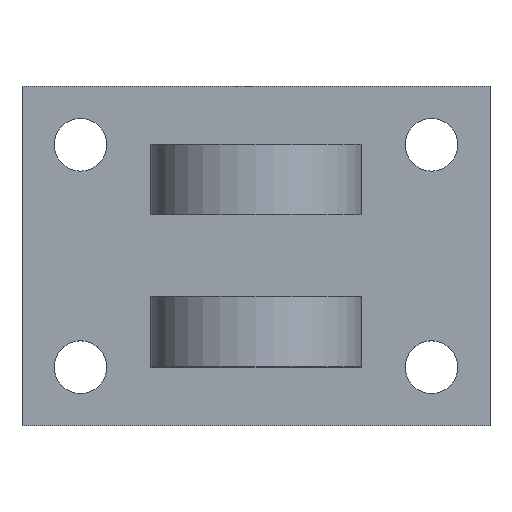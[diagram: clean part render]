
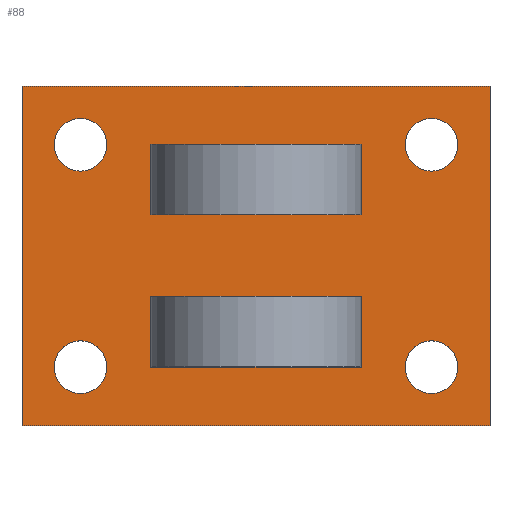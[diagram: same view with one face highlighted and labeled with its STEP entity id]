
A CAD part, top view. The second image highlights one B-rep face of the part: STEP entity #88.
In plain terms, the highlighted planar face has unit normal (0, 0, 1).
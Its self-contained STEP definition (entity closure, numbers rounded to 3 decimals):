
#24 = VERTEX_POINT('',#25);
#25 = CARTESIAN_POINT('',(0.,0.,10.));
#40 = VERTEX_POINT('',#41);
#41 = CARTESIAN_POINT('',(0.,58.,10.));
#47 = EDGE_CURVE('',#24,#40,#48,.T.);
#48 = LINE('',#49,#50);
#49 = CARTESIAN_POINT('',(0.,0.,10.));
#50 = VECTOR('',#51,1.);
#51 = DIRECTION('',(-0.,1.,0.));
#70 = EDGE_CURVE('',#24,#71,#73,.T.);
#71 = VERTEX_POINT('',#72);
#72 = CARTESIAN_POINT('',(80.,0.,10.));
#73 = LINE('',#74,#75);
#74 = CARTESIAN_POINT('',(0.,0.,10.));
#75 = VECTOR('',#76,1.);
#76 = DIRECTION('',(1.,0.,-0.));
#88 = ADVANCED_FACE('',(#89,#107,#118,#152,#163,#174,#208),#219,.T.);
#89 = FACE_BOUND('',#90,.T.);
#90 = EDGE_LOOP('',(#91,#92,#93,#101));
#91 = ORIENTED_EDGE('',*,*,#47,.F.);
#92 = ORIENTED_EDGE('',*,*,#70,.T.);
#93 = ORIENTED_EDGE('',*,*,#94,.T.);
#94 = EDGE_CURVE('',#71,#95,#97,.T.);
#95 = VERTEX_POINT('',#96);
#96 = CARTESIAN_POINT('',(80.,58.,10.));
#97 = LINE('',#98,#99);
#98 = CARTESIAN_POINT('',(80.,0.,10.));
#99 = VECTOR('',#100,1.);
#100 = DIRECTION('',(-0.,1.,0.));
#101 = ORIENTED_EDGE('',*,*,#102,.F.);
#102 = EDGE_CURVE('',#40,#95,#103,.T.);
#103 = LINE('',#104,#105);
#104 = CARTESIAN_POINT('',(0.,58.,10.));
#105 = VECTOR('',#106,1.);
#106 = DIRECTION('',(1.,0.,-0.));
#107 = FACE_BOUND('',#108,.T.);
#108 = EDGE_LOOP('',(#109));
#109 = ORIENTED_EDGE('',*,*,#110,.F.);
#110 = EDGE_CURVE('',#111,#111,#113,.T.);
#111 = VERTEX_POINT('',#112);
#112 = CARTESIAN_POINT('',(14.5,10.,10.));
#113 = CIRCLE('',#114,4.5);
#114 = AXIS2_PLACEMENT_3D('',#115,#116,#117);
#115 = CARTESIAN_POINT('',(10.,10.,10.));
#116 = DIRECTION('',(0.,0.,1.));
#117 = DIRECTION('',(1.,0.,-0.));
#118 = FACE_BOUND('',#119,.T.);
#119 = EDGE_LOOP('',(#120,#130,#138,#146));
#120 = ORIENTED_EDGE('',*,*,#121,.T.);
#121 = EDGE_CURVE('',#122,#124,#126,.T.);
#122 = VERTEX_POINT('',#123);
#123 = CARTESIAN_POINT('',(58.,10.,10.));
#124 = VERTEX_POINT('',#125);
#125 = CARTESIAN_POINT('',(22.,10.,10.));
#126 = LINE('',#127,#128);
#127 = CARTESIAN_POINT('',(11.,10.,10.));
#128 = VECTOR('',#129,1.);
#129 = DIRECTION('',(-1.,-0.,0.));
#130 = ORIENTED_EDGE('',*,*,#131,.T.);
#131 = EDGE_CURVE('',#124,#132,#134,.T.);
#132 = VERTEX_POINT('',#133);
#133 = CARTESIAN_POINT('',(22.,22.,10.));
#134 = LINE('',#135,#136);
#135 = CARTESIAN_POINT('',(22.,5.,10.));
#136 = VECTOR('',#137,1.);
#137 = DIRECTION('',(-0.,1.,0.));
#138 = ORIENTED_EDGE('',*,*,#139,.F.);
#139 = EDGE_CURVE('',#140,#132,#142,.T.);
#140 = VERTEX_POINT('',#141);
#141 = CARTESIAN_POINT('',(58.,22.,10.));
#142 = LINE('',#143,#144);
#143 = CARTESIAN_POINT('',(11.,22.,10.));
#144 = VECTOR('',#145,1.);
#145 = DIRECTION('',(-1.,-0.,0.));
#146 = ORIENTED_EDGE('',*,*,#147,.F.);
#147 = EDGE_CURVE('',#122,#140,#148,.T.);
#148 = LINE('',#149,#150);
#149 = CARTESIAN_POINT('',(58.,5.,10.));
#150 = VECTOR('',#151,1.);
#151 = DIRECTION('',(-0.,1.,0.));
#152 = FACE_BOUND('',#153,.T.);
#153 = EDGE_LOOP('',(#154));
#154 = ORIENTED_EDGE('',*,*,#155,.F.);
#155 = EDGE_CURVE('',#156,#156,#158,.T.);
#156 = VERTEX_POINT('',#157);
#157 = CARTESIAN_POINT('',(74.5,10.,10.));
#158 = CIRCLE('',#159,4.5);
#159 = AXIS2_PLACEMENT_3D('',#160,#161,#162);
#160 = CARTESIAN_POINT('',(70.,10.,10.));
#161 = DIRECTION('',(0.,0.,1.));
#162 = DIRECTION('',(1.,0.,-0.));
#163 = FACE_BOUND('',#164,.T.);
#164 = EDGE_LOOP('',(#165));
#165 = ORIENTED_EDGE('',*,*,#166,.F.);
#166 = EDGE_CURVE('',#167,#167,#169,.T.);
#167 = VERTEX_POINT('',#168);
#168 = CARTESIAN_POINT('',(14.5,48.,10.));
#169 = CIRCLE('',#170,4.5);
#170 = AXIS2_PLACEMENT_3D('',#171,#172,#173);
#171 = CARTESIAN_POINT('',(10.,48.,10.));
#172 = DIRECTION('',(0.,0.,1.));
#173 = DIRECTION('',(1.,0.,-0.));
#174 = FACE_BOUND('',#175,.T.);
#175 = EDGE_LOOP('',(#176,#186,#194,#202));
#176 = ORIENTED_EDGE('',*,*,#177,.T.);
#177 = EDGE_CURVE('',#178,#180,#182,.T.);
#178 = VERTEX_POINT('',#179);
#179 = CARTESIAN_POINT('',(58.,36.,10.));
#180 = VERTEX_POINT('',#181);
#181 = CARTESIAN_POINT('',(22.,36.,10.));
#182 = LINE('',#183,#184);
#183 = CARTESIAN_POINT('',(11.,36.,10.));
#184 = VECTOR('',#185,1.);
#185 = DIRECTION('',(-1.,-0.,0.));
#186 = ORIENTED_EDGE('',*,*,#187,.T.);
#187 = EDGE_CURVE('',#180,#188,#190,.T.);
#188 = VERTEX_POINT('',#189);
#189 = CARTESIAN_POINT('',(22.,48.,10.));
#190 = LINE('',#191,#192);
#191 = CARTESIAN_POINT('',(22.,18.,10.));
#192 = VECTOR('',#193,1.);
#193 = DIRECTION('',(-0.,1.,0.));
#194 = ORIENTED_EDGE('',*,*,#195,.F.);
#195 = EDGE_CURVE('',#196,#188,#198,.T.);
#196 = VERTEX_POINT('',#197);
#197 = CARTESIAN_POINT('',(58.,48.,10.));
#198 = LINE('',#199,#200);
#199 = CARTESIAN_POINT('',(11.,48.,10.));
#200 = VECTOR('',#201,1.);
#201 = DIRECTION('',(-1.,-0.,0.));
#202 = ORIENTED_EDGE('',*,*,#203,.F.);
#203 = EDGE_CURVE('',#178,#196,#204,.T.);
#204 = LINE('',#205,#206);
#205 = CARTESIAN_POINT('',(58.,18.,10.));
#206 = VECTOR('',#207,1.);
#207 = DIRECTION('',(-0.,1.,0.));
#208 = FACE_BOUND('',#209,.T.);
#209 = EDGE_LOOP('',(#210));
#210 = ORIENTED_EDGE('',*,*,#211,.F.);
#211 = EDGE_CURVE('',#212,#212,#214,.T.);
#212 = VERTEX_POINT('',#213);
#213 = CARTESIAN_POINT('',(74.5,48.,10.));
#214 = CIRCLE('',#215,4.5);
#215 = AXIS2_PLACEMENT_3D('',#216,#217,#218);
#216 = CARTESIAN_POINT('',(70.,48.,10.));
#217 = DIRECTION('',(0.,0.,1.));
#218 = DIRECTION('',(1.,0.,-0.));
#219 = PLANE('',#220);
#220 = AXIS2_PLACEMENT_3D('',#221,#222,#223);
#221 = CARTESIAN_POINT('',(0.,0.,10.));
#222 = DIRECTION('',(0.,0.,1.));
#223 = DIRECTION('',(1.,0.,-0.));
